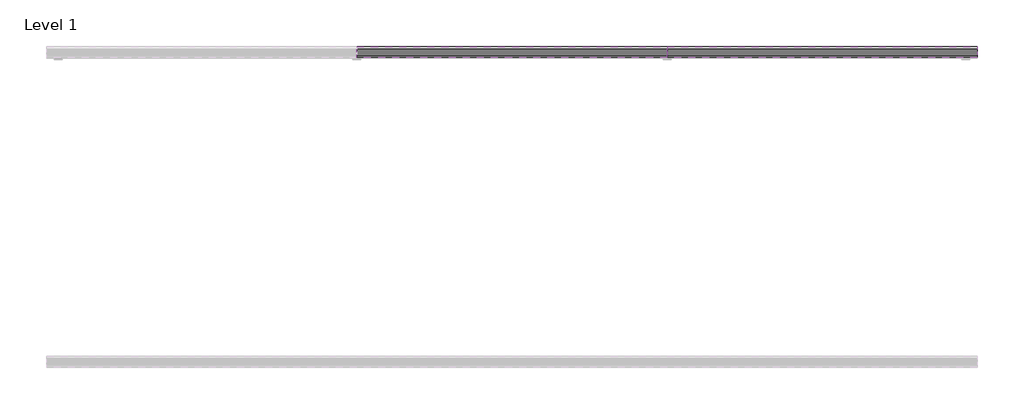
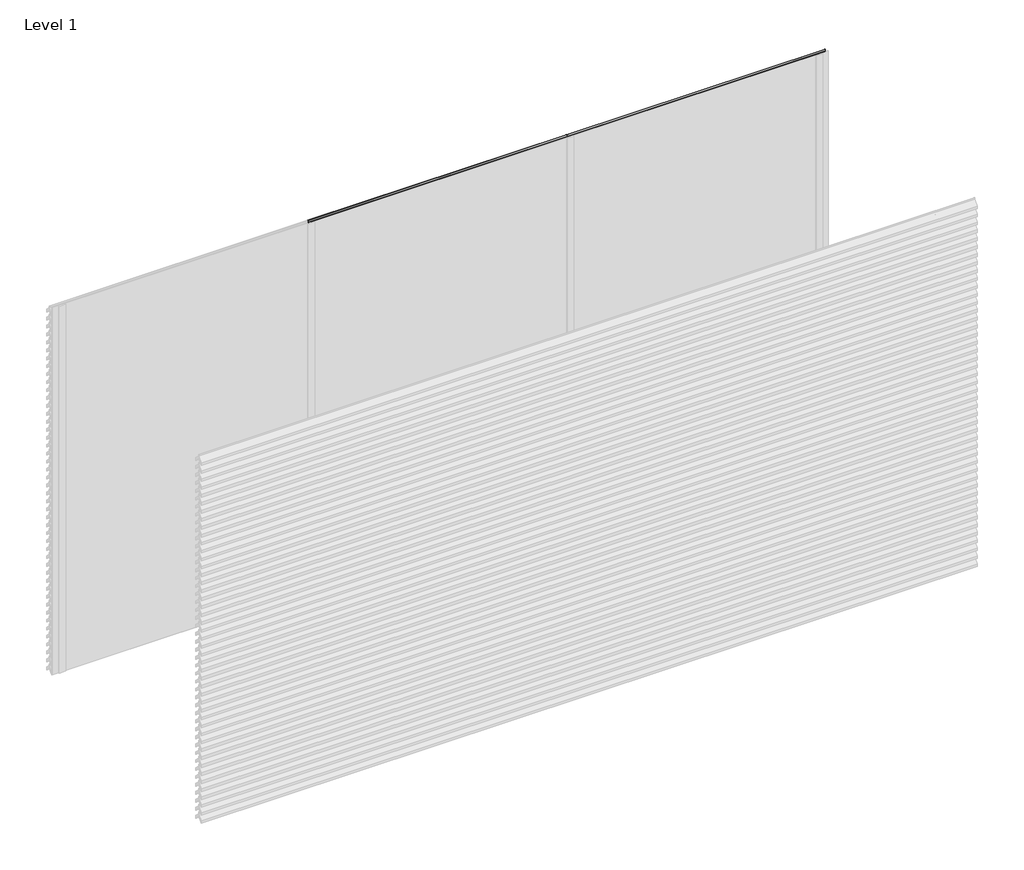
# One storey, part 9 of 9: 92 proxies.
"""IFC4 building model written with IfcOpenShell, lengths in millimetres."""

import ifcopenshell
import ifcopenshell.guid

model = None  # the IFC model being written
_history = None  # IfcOwnerHistory: only IFC2X3 demands one
_inside = {}  # id of a spatial element -> (the spatial element, [elements in it])
_under = {}  # id of a project, library or spatial element -> (it, [spatial elements below it])
_declared = {}  # id of a project -> (the project, [libraries it declares])
_typed = {}  # id of a type object -> (the type object, [elements of that type])
_made_of = {}  # id of a material, layer set ... -> (it, [elements and type objects made of it])


def new_model(schema):
    """Start an empty IFC model of exactly this schema.

    Asked for "IFC4X3", IfcOpenShell would pick the latest addendum, in which some entities
    have other attributes; the version numbers below select the first issue.
    IFC2X3 requires an IfcOwnerHistory on every rooted entity: one is made here for all.
    """
    global model, _history
    if schema == "IFC4X3":
        model = ifcopenshell.file(schema_version=(4, 3, 0, 0))
    else:
        model = ifcopenshell.file(schema=schema)
    _inside.clear()
    _under.clear()
    _declared.clear()
    _typed.clear()
    _made_of.clear()
    _history = None
    if model.schema == "IFC2X3":
        org = make("IfcOrganization", Name="unknown")
        user = make(
            "IfcPersonAndOrganization",
            ThePerson=make("IfcPerson", FamilyName="unknown"),
            TheOrganization=org,
        )
        app = make(
            "IfcApplication",
            ApplicationDeveloper=org,
            Version="unknown",
            ApplicationFullName="unknown",
            ApplicationIdentifier="unknown",
        )
        _history = make(
            "IfcOwnerHistory",
            OwningUser=user,
            OwningApplication=app,
            ChangeAction="ADDED",
            CreationDate=0,
        )
    return model


def make(cls, **values):
    """One entity of the class cls with the attributes given. An attribute that is None is left unset."""
    return model.create_entity(
        cls, **{name: value for name, value in values.items() if value is not None}
    )


def rooted(cls, **values):
    """An entity with a GlobalId (a new one), such as an element, a storey or a relation."""
    return make(cls, GlobalId=ifcopenshell.guid.new(), OwnerHistory=_history, **values)


def si_unit(unit_type, name, prefix=None):
    """IfcSIUnit, for example si_unit("LENGTHUNIT", "METRE", prefix="MILLI")."""
    return make("IfcSIUnit", UnitType=unit_type, Prefix=prefix, Name=name)


def assignment(units):
    """IfcUnitAssignment: the units of a project."""
    return None if units is None else make("IfcUnitAssignment", Units=units)


def point(xyz):
    """IfcCartesianPoint."""
    return None if xyz is None else make("IfcCartesianPoint", Coordinates=xyz)


def direction(xyz):
    """IfcDirection."""
    return None if xyz is None else make("IfcDirection", DirectionRatios=xyz)


def frame(location, z_axis=None, x_axis=None):
    """IfcAxis2Placement3D, a coordinate frame: its origin and axes. An axis left out is left unset."""
    return make(
        "IfcAxis2Placement3D",
        Location=point(location),
        Axis=direction(z_axis),
        RefDirection=direction(x_axis),
    )


def origin():
    """The frame at (0, 0, 0) with its axes left unset."""
    return frame((0.0, 0.0, 0.0))


def place(relative_to, where):
    """IfcLocalPlacement: puts the frame where relative to a parent placement (None: the world)."""
    return make(
        "IfcLocalPlacement", PlacementRelTo=relative_to, RelativePlacement=where
    )


def context(
    kind, dimensions, precision=None, world=None, true_north=None, identifier=None
):
    """IfcGeometricRepresentationContext, for example the 3D "Model" context."""
    return make(
        "IfcGeometricRepresentationContext",
        ContextIdentifier=identifier,
        ContextType=kind,
        CoordinateSpaceDimension=dimensions,
        Precision=precision,
        WorldCoordinateSystem=world,
        TrueNorth=true_north,
    )


def project(units=None, contexts=None):
    """IfcProject with its units and contexts."""
    return rooted(
        "IfcProject",
        Name="project",
        RepresentationContexts=contexts,
        UnitsInContext=assignment(units),
    )


def spatial(cls, under=None, at=None, **own):
    """A site, building, storey or space (cls), placed at a placement, below another one or the project."""
    s = rooted(cls, ObjectPlacement=at, **own)
    if under is not None:
        _under.setdefault(under.id(), (under, []))[1].append(s)
    return s


def polyline(points):
    """IfcPolyline through the points."""
    return make("IfcPolyline", Points=[point(p) for p in points])


def outline(outer, holes=None, kind="AREA"):
    """IfcArbitraryClosedProfileDef: a profile drawn as a closed curve; with holes, ...WithVoids."""
    if holes is None:
        return make("IfcArbitraryClosedProfileDef", ProfileType=kind, OuterCurve=outer)
    return make(
        "IfcArbitraryProfileDefWithVoids",
        ProfileType=kind,
        OuterCurve=outer,
        InnerCurves=holes,
    )


def extrude(swept, where, along, depth):
    """IfcExtrudedAreaSolid: the profile swept, set in the frame where, extruded along a direction by depth."""
    return make(
        "IfcExtrudedAreaSolid",
        SweptArea=swept,
        Position=where,
        ExtrudedDirection=direction(along),
        Depth=depth,
    )


def shape(context_of_items, identifier, shape_type, items):
    """IfcShapeRepresentation: the items that make up one representation, for example the "Body"."""
    return make(
        "IfcShapeRepresentation",
        ContextOfItems=context_of_items,
        RepresentationIdentifier=identifier,
        RepresentationType=shape_type,
        Items=items,
    )


def made_of(thing, what):
    """Note that an element or type object is made of a material, layer set ...; save() writes the relation."""
    if what is not None:
        _made_of.setdefault(what.id(), (what, []))[1].append(thing)
    return thing


def element(
    cls,
    number,
    at=None,
    inside=None,
    cuts=None,
    type_object=None,
    material=None,
    context=None,
    identifier="Body",
    shape_type=None,
    held_by="IfcProductDefinitionShape",
    body=None,
    shapes=None,
    **own,
):
    """One element of the class cls, such as IfcWall. Its Tag is "e" and its number.

    at: its placement. inside: the storey or other place that contains it. cuts: it is an
    opening in that element (IfcRelVoidsElement). A single representation is given by context,
    identifier, shape_type and body (its items); several are given by shapes. held_by: the class
    of the entity that holds the representations. save() writes the other relations.
    """
    e = rooted(cls, Tag="e%d" % number, ObjectPlacement=at, **own)
    if body is not None:
        shapes = [shape(context, identifier, shape_type, body)]
    if shapes is not None:
        e.Representation = make(held_by, Representations=shapes)
    if inside is not None:
        _inside.setdefault(inside.id(), (inside, []))[1].append(e)
    if cuts is not None:
        rooted(
            "IfcRelVoidsElement", RelatingBuildingElement=cuts, RelatedOpeningElement=e
        )
    if type_object is not None:
        _typed.setdefault(type_object.id(), (type_object, []))[1].append(e)
    return made_of(e, material)


def aggregate(whole, parts):
    """IfcRelAggregates: a whole, such as a stair, and the parts it consists of."""
    return rooted("IfcRelAggregates", RelatingObject=whole, RelatedObjects=parts)


def save(model, path):
    """Write the relations noted so far, then the file.

    IfcRelAggregates (storeys below a building ...), IfcRelContainedInSpatialStructure (elements
    in a storey), IfcRelDefinesByType, IfcRelAssociatesMaterial and IfcRelDeclares: one each for
    every whole, place, type object, material and project.
    """
    for whole, parts in _under.values():
        aggregate(whole, parts)
    for where, things in _inside.values():
        rooted(
            "IfcRelContainedInSpatialStructure",
            RelatedElements=things,
            RelatingStructure=where,
        )
    for kind, things in _typed.values():
        rooted("IfcRelDefinesByType", RelatedObjects=things, RelatingType=kind)
    for what, things in _made_of.values():
        rooted("IfcRelAssociatesMaterial", RelatedObjects=things, RelatingMaterial=what)
    for by, libraries in _declared.values():
        rooted("IfcRelDeclares", RelatingContext=by, RelatedDefinitions=libraries)
    model.write(path)


model = new_model("IFC4")

# Units and contexts
model_context = context("Model", 3, world=origin())
ifc_project = project(units=[si_unit("LENGTHUNIT", "METRE", prefix="MILLI")], contexts=[model_context])

# Site, building, storey
site = spatial("IfcSite", under=ifc_project)
building = spatial("IfcBuilding", under=site)
storey = spatial("IfcBuildingStorey", under=building, Name="Level 1", Elevation=0.0)

# Proxies
placement = place(None, origin())
element("IfcBuildingElementProxy", 1, Name="Wall Sweeps", at=placement, inside=storey, context=model_context, shape_type="SweptSolid", body=[
    extrude(outline(polyline([(74.0, 2942.0), (74.0, 2919.0), (38.5, 2954.5), (3.0, 2919.0), (3.0, 2942.0), (37.5, 2976.5), (37.5, 2990.0), (39.5, 2990.0), (39.5, 2976.5), (74.0, 2942.0)])), frame((2000.0, 0.0, 0.0), z_axis=(1.0, 0.0, 0.0), x_axis=(0.0, 1.0, 0.0)), (0.0, 0.0, 1.0), 2000.0),
])
element("IfcBuildingElementProxy", 2, Name="Wall Sweeps", at=placement, inside=storey, context=model_context, shape_type="SweptSolid", body=[
    extrude(outline(polyline([(74.0, 2877.0), (74.0, 2854.0), (38.5, 2889.5), (3.0, 2854.0), (3.0, 2877.0), (37.5, 2911.5), (37.5, 2925.0), (39.5, 2925.0), (39.5, 2911.5), (74.0, 2877.0)])), frame((2000.0, 0.0, 0.0), z_axis=(1.0, 0.0, 0.0), x_axis=(0.0, 1.0, 0.0)), (0.0, 0.0, 1.0), 2000.0),
])
element("IfcBuildingElementProxy", 3, Name="Wall Sweeps", at=placement, inside=storey, context=model_context, shape_type="SweptSolid", body=[
    extrude(outline(polyline([(74.0, 2812.0), (74.0, 2789.0), (38.5, 2824.5), (3.0, 2789.0), (3.0, 2812.0), (37.5, 2846.5), (37.5, 2860.0), (39.5, 2860.0), (39.5, 2846.5), (74.0, 2812.0)])), frame((2000.0, 0.0, 0.0), z_axis=(1.0, 0.0, 0.0), x_axis=(0.0, 1.0, 0.0)), (0.0, 0.0, 1.0), 2000.0),
])
element("IfcBuildingElementProxy", 4, Name="Wall Sweeps", at=placement, inside=storey, context=model_context, shape_type="SweptSolid", body=[
    extrude(outline(polyline([(74.0, 2747.0), (74.0, 2724.0), (38.5, 2759.5), (3.0, 2724.0), (3.0, 2747.0), (37.5, 2781.5), (37.5, 2795.0), (39.5, 2795.0), (39.5, 2781.5), (74.0, 2747.0)])), frame((2000.0, 0.0, 0.0), z_axis=(1.0, 0.0, 0.0), x_axis=(0.0, 1.0, 0.0)), (0.0, 0.0, 1.0), 2000.0),
])
element("IfcBuildingElementProxy", 5, Name="Wall Sweeps", at=placement, inside=storey, context=model_context, shape_type="SweptSolid", body=[
    extrude(outline(polyline([(74.0, 2682.0), (74.0, 2659.0), (38.5, 2694.5), (3.0, 2659.0), (3.0, 2682.0), (37.5, 2716.5), (37.5, 2730.0), (39.5, 2730.0), (39.5, 2716.5), (74.0, 2682.0)])), frame((2000.0, 0.0, 0.0), z_axis=(1.0, 0.0, 0.0), x_axis=(0.0, 1.0, 0.0)), (0.0, 0.0, 1.0), 2000.0),
])
element("IfcBuildingElementProxy", 6, Name="Wall Sweeps", at=placement, inside=storey, context=model_context, shape_type="SweptSolid", body=[
    extrude(outline(polyline([(74.0, 2617.0), (74.0, 2594.0), (38.5, 2629.5), (3.0, 2594.0), (3.0, 2617.0), (37.5, 2651.5), (37.5, 2665.0), (39.5, 2665.0), (39.5, 2651.5), (74.0, 2617.0)])), frame((2000.0, 0.0, 0.0), z_axis=(1.0, 0.0, 0.0), x_axis=(0.0, 1.0, 0.0)), (0.0, 0.0, 1.0), 2000.0),
])
element("IfcBuildingElementProxy", 7, Name="Wall Sweeps", at=placement, inside=storey, context=model_context, shape_type="SweptSolid", body=[
    extrude(outline(polyline([(74.0, 2552.0), (74.0, 2529.0), (38.5, 2564.5), (3.0, 2529.0), (3.0, 2552.0), (37.5, 2586.5), (37.5, 2600.0), (39.5, 2600.0), (39.5, 2586.5), (74.0, 2552.0)])), frame((2000.0, 0.0, 0.0), z_axis=(1.0, 0.0, 0.0), x_axis=(0.0, 1.0, 0.0)), (0.0, 0.0, 1.0), 2000.0),
])
element("IfcBuildingElementProxy", 8, Name="Wall Sweeps", at=placement, inside=storey, context=model_context, shape_type="SweptSolid", body=[
    extrude(outline(polyline([(74.0, 2487.0), (74.0, 2464.0), (38.5, 2499.5), (3.0, 2464.0), (3.0, 2487.0), (37.5, 2521.5), (37.5, 2535.0), (39.5, 2535.0), (39.5, 2521.5), (74.0, 2487.0)])), frame((2000.0, 0.0, 0.0), z_axis=(1.0, 0.0, 0.0), x_axis=(0.0, 1.0, 0.0)), (0.0, 0.0, 1.0), 2000.0),
])
element("IfcBuildingElementProxy", 9, Name="Wall Sweeps", at=placement, inside=storey, context=model_context, shape_type="SweptSolid", body=[
    extrude(outline(polyline([(74.0, 2422.0), (74.0, 2399.0), (38.5, 2434.5), (3.0, 2399.0), (3.0, 2422.0), (37.5, 2456.5), (37.5, 2470.0), (39.5, 2470.0), (39.5, 2456.5), (74.0, 2422.0)])), frame((2000.0, 0.0, 0.0), z_axis=(1.0, 0.0, 0.0), x_axis=(0.0, 1.0, 0.0)), (0.0, 0.0, 1.0), 2000.0),
])
element("IfcBuildingElementProxy", 10, Name="Wall Sweeps", at=placement, inside=storey, context=model_context, shape_type="SweptSolid", body=[
    extrude(outline(polyline([(74.0, 2357.0), (74.0, 2334.0), (38.5, 2369.5), (3.0, 2334.0), (3.0, 2357.0), (37.5, 2391.5), (37.5, 2405.0), (39.5, 2405.0), (39.5, 2391.5), (74.0, 2357.0)])), frame((2000.0, 0.0, 0.0), z_axis=(1.0, 0.0, 0.0), x_axis=(0.0, 1.0, 0.0)), (0.0, 0.0, 1.0), 2000.0),
])
element("IfcBuildingElementProxy", 11, Name="Wall Sweeps", at=placement, inside=storey, context=model_context, shape_type="SweptSolid", body=[
    extrude(outline(polyline([(74.0, 2292.0), (74.0, 2269.0), (38.5, 2304.5), (3.0, 2269.0), (3.0, 2292.0), (37.5, 2326.5), (37.5, 2340.0), (39.5, 2340.0), (39.5, 2326.5), (74.0, 2292.0)])), frame((2000.0, 0.0, 0.0), z_axis=(1.0, 0.0, 0.0), x_axis=(0.0, 1.0, 0.0)), (0.0, 0.0, 1.0), 2000.0),
])
element("IfcBuildingElementProxy", 12, Name="Wall Sweeps", at=placement, inside=storey, context=model_context, shape_type="SweptSolid", body=[
    extrude(outline(polyline([(74.0, 2227.0), (74.0, 2204.0), (38.5, 2239.5), (3.0, 2204.0), (3.0, 2227.0), (37.5, 2261.5), (37.5, 2275.0), (39.5, 2275.0), (39.5, 2261.5), (74.0, 2227.0)])), frame((2000.0, 0.0, 0.0), z_axis=(1.0, 0.0, 0.0), x_axis=(0.0, 1.0, 0.0)), (0.0, 0.0, 1.0), 2000.0),
])
element("IfcBuildingElementProxy", 13, Name="Wall Sweeps", at=placement, inside=storey, context=model_context, shape_type="SweptSolid", body=[
    extrude(outline(polyline([(74.0, 2162.0), (74.0, 2139.0), (38.5, 2174.5), (3.0, 2139.0), (3.0, 2162.0), (37.5, 2196.5), (37.5, 2210.0), (39.5, 2210.0), (39.5, 2196.5), (74.0, 2162.0)])), frame((2000.0, 0.0, 0.0), z_axis=(1.0, 0.0, 0.0), x_axis=(0.0, 1.0, 0.0)), (0.0, 0.0, 1.0), 2000.0),
])
element("IfcBuildingElementProxy", 14, Name="Wall Sweeps", at=placement, inside=storey, context=model_context, shape_type="SweptSolid", body=[
    extrude(outline(polyline([(74.0, 2097.0), (74.0, 2074.0), (38.5, 2109.5), (3.0, 2074.0), (3.0, 2097.0), (37.5, 2131.5), (37.5, 2145.0), (39.5, 2145.0), (39.5, 2131.5), (74.0, 2097.0)])), frame((2000.0, 0.0, 0.0), z_axis=(1.0, 0.0, 0.0), x_axis=(0.0, 1.0, 0.0)), (0.0, 0.0, 1.0), 2000.0),
])
element("IfcBuildingElementProxy", 15, Name="Wall Sweeps", at=placement, inside=storey, context=model_context, shape_type="SweptSolid", body=[
    extrude(outline(polyline([(74.0, 2032.0), (74.0, 2009.0), (38.5, 2044.5), (3.0, 2009.0), (3.0, 2032.0), (37.5, 2066.5), (37.5, 2080.0), (39.5, 2080.0), (39.5, 2066.5), (74.0, 2032.0)])), frame((2000.0, 0.0, 0.0), z_axis=(1.0, 0.0, 0.0), x_axis=(0.0, 1.0, 0.0)), (0.0, 0.0, 1.0), 2000.0),
])
element("IfcBuildingElementProxy", 16, Name="Wall Sweeps", at=placement, inside=storey, context=model_context, shape_type="SweptSolid", body=[
    extrude(outline(polyline([(74.0, 1967.0), (74.0, 1944.0), (38.5, 1979.5), (3.0, 1944.0), (3.0, 1967.0), (37.5, 2001.5), (37.5, 2015.0), (39.5, 2015.0), (39.5, 2001.5), (74.0, 1967.0)])), frame((2000.0, 0.0, 0.0), z_axis=(1.0, 0.0, 0.0), x_axis=(0.0, 1.0, 0.0)), (0.0, 0.0, 1.0), 2000.0),
])
element("IfcBuildingElementProxy", 17, Name="Wall Sweeps", at=placement, inside=storey, context=model_context, shape_type="SweptSolid", body=[
    extrude(outline(polyline([(74.0, 1902.0), (74.0, 1879.0), (38.5, 1914.5), (3.0, 1879.0), (3.0, 1902.0), (37.5, 1936.5), (37.5, 1950.0), (39.5, 1950.0), (39.5, 1936.5), (74.0, 1902.0)])), frame((2000.0, 0.0, 0.0), z_axis=(1.0, 0.0, 0.0), x_axis=(0.0, 1.0, 0.0)), (0.0, 0.0, 1.0), 2000.0),
])
element("IfcBuildingElementProxy", 18, Name="Wall Sweeps", at=placement, inside=storey, context=model_context, shape_type="SweptSolid", body=[
    extrude(outline(polyline([(74.0, 1837.0), (74.0, 1814.0), (38.5, 1849.5), (3.0, 1814.0), (3.0, 1837.0), (37.5, 1871.5), (37.5, 1885.0), (39.5, 1885.0), (39.5, 1871.5), (74.0, 1837.0)])), frame((2000.0, 0.0, 0.0), z_axis=(1.0, 0.0, 0.0), x_axis=(0.0, 1.0, 0.0)), (0.0, 0.0, 1.0), 2000.0),
])
element("IfcBuildingElementProxy", 19, Name="Wall Sweeps", at=placement, inside=storey, context=model_context, shape_type="SweptSolid", body=[
    extrude(outline(polyline([(74.0, 1772.0), (74.0, 1749.0), (38.5, 1784.5), (3.0, 1749.0), (3.0, 1772.0), (37.5, 1806.5), (37.5, 1820.0), (39.5, 1820.0), (39.5, 1806.5), (74.0, 1772.0)])), frame((2000.0, 0.0, 0.0), z_axis=(1.0, 0.0, 0.0), x_axis=(0.0, 1.0, 0.0)), (0.0, 0.0, 1.0), 2000.0),
])
element("IfcBuildingElementProxy", 20, Name="Wall Sweeps", at=placement, inside=storey, context=model_context, shape_type="SweptSolid", body=[
    extrude(outline(polyline([(74.0, 1707.0), (74.0, 1684.0), (38.5, 1719.5), (3.0, 1684.0), (3.0, 1707.0), (37.5, 1741.5), (37.5, 1755.0), (39.5, 1755.0), (39.5, 1741.5), (74.0, 1707.0)])), frame((2000.0, 0.0, 0.0), z_axis=(1.0, 0.0, 0.0), x_axis=(0.0, 1.0, 0.0)), (0.0, 0.0, 1.0), 2000.0),
])
element("IfcBuildingElementProxy", 21, Name="Wall Sweeps", at=placement, inside=storey, context=model_context, shape_type="SweptSolid", body=[
    extrude(outline(polyline([(74.0, 1642.0), (74.0, 1619.0), (38.5, 1654.5), (3.0, 1619.0), (3.0, 1642.0), (37.5, 1676.5), (37.5, 1690.0), (39.5, 1690.0), (39.5, 1676.5), (74.0, 1642.0)])), frame((2000.0, 0.0, 0.0), z_axis=(1.0, 0.0, 0.0), x_axis=(0.0, 1.0, 0.0)), (0.0, 0.0, 1.0), 2000.0),
])
element("IfcBuildingElementProxy", 22, Name="Wall Sweeps", at=placement, inside=storey, context=model_context, shape_type="SweptSolid", body=[
    extrude(outline(polyline([(74.0, 1577.0), (74.0, 1554.0), (38.5, 1589.5), (3.0, 1554.0), (3.0, 1577.0), (37.5, 1611.5), (37.5, 1625.0), (39.5, 1625.0), (39.5, 1611.5), (74.0, 1577.0)])), frame((2000.0, 0.0, 0.0), z_axis=(1.0, 0.0, 0.0), x_axis=(0.0, 1.0, 0.0)), (0.0, 0.0, 1.0), 2000.0),
])
element("IfcBuildingElementProxy", 23, Name="Wall Sweeps", at=placement, inside=storey, context=model_context, shape_type="SweptSolid", body=[
    extrude(outline(polyline([(74.0, 1512.0), (74.0, 1489.0), (38.5, 1524.5), (3.0, 1489.0), (3.0, 1512.0), (37.5, 1546.5), (37.5, 1560.0), (39.5, 1560.0), (39.5, 1546.5), (74.0, 1512.0)])), frame((2000.0, 0.0, 0.0), z_axis=(1.0, 0.0, 0.0), x_axis=(0.0, 1.0, 0.0)), (0.0, 0.0, 1.0), 2000.0),
])
element("IfcBuildingElementProxy", 24, Name="Wall Sweeps", at=placement, inside=storey, context=model_context, shape_type="SweptSolid", body=[
    extrude(outline(polyline([(74.0, 1447.0), (74.0, 1424.0), (38.5, 1459.5), (3.0, 1424.0), (3.0, 1447.0), (37.5, 1481.5), (37.5, 1495.0), (39.5, 1495.0), (39.5, 1481.5), (74.0, 1447.0)])), frame((2000.0, 0.0, 0.0), z_axis=(1.0, 0.0, 0.0), x_axis=(0.0, 1.0, 0.0)), (0.0, 0.0, 1.0), 2000.0),
])
element("IfcBuildingElementProxy", 25, Name="Wall Sweeps", at=placement, inside=storey, context=model_context, shape_type="SweptSolid", body=[
    extrude(outline(polyline([(74.0, 1382.0), (74.0, 1359.0), (38.5, 1394.5), (3.0, 1359.0), (3.0, 1382.0), (37.5, 1416.5), (37.5, 1430.0), (39.5, 1430.0), (39.5, 1416.5), (74.0, 1382.0)])), frame((2000.0, 0.0, 0.0), z_axis=(1.0, 0.0, 0.0), x_axis=(0.0, 1.0, 0.0)), (0.0, 0.0, 1.0), 2000.0),
])
element("IfcBuildingElementProxy", 26, Name="Wall Sweeps", at=placement, inside=storey, context=model_context, shape_type="SweptSolid", body=[
    extrude(outline(polyline([(74.0, 1317.0), (74.0, 1294.0), (38.5, 1329.5), (3.0, 1294.0), (3.0, 1317.0), (37.5, 1351.5), (37.5, 1365.0), (39.5, 1365.0), (39.5, 1351.5), (74.0, 1317.0)])), frame((2000.0, 0.0, 0.0), z_axis=(1.0, 0.0, 0.0), x_axis=(0.0, 1.0, 0.0)), (0.0, 0.0, 1.0), 2000.0),
])
element("IfcBuildingElementProxy", 27, Name="Wall Sweeps", at=placement, inside=storey, context=model_context, shape_type="SweptSolid", body=[
    extrude(outline(polyline([(74.0, 1252.0), (74.0, 1229.0), (38.5, 1264.5), (3.0, 1229.0), (3.0, 1252.0), (37.5, 1286.5), (37.5, 1300.0), (39.5, 1300.0), (39.5, 1286.5), (74.0, 1252.0)])), frame((2000.0, 0.0, 0.0), z_axis=(1.0, 0.0, 0.0), x_axis=(0.0, 1.0, 0.0)), (0.0, 0.0, 1.0), 2000.0),
])
element("IfcBuildingElementProxy", 28, Name="Wall Sweeps", at=placement, inside=storey, context=model_context, shape_type="SweptSolid", body=[
    extrude(outline(polyline([(74.0, 1187.0), (74.0, 1164.0), (38.5, 1199.5), (3.0, 1164.0), (3.0, 1187.0), (37.5, 1221.5), (37.5, 1235.0), (39.5, 1235.0), (39.5, 1221.5), (74.0, 1187.0)])), frame((2000.0, 0.0, 0.0), z_axis=(1.0, 0.0, 0.0), x_axis=(0.0, 1.0, 0.0)), (0.0, 0.0, 1.0), 2000.0),
])
element("IfcBuildingElementProxy", 29, Name="Wall Sweeps", at=placement, inside=storey, context=model_context, shape_type="SweptSolid", body=[
    extrude(outline(polyline([(74.0, 1122.0), (74.0, 1099.0), (38.5, 1134.5), (3.0, 1099.0), (3.0, 1122.0), (37.5, 1156.5), (37.5, 1170.0), (39.5, 1170.0), (39.5, 1156.5), (74.0, 1122.0)])), frame((2000.0, 0.0, 0.0), z_axis=(1.0, 0.0, 0.0), x_axis=(0.0, 1.0, 0.0)), (0.0, 0.0, 1.0), 2000.0),
])
element("IfcBuildingElementProxy", 30, Name="Wall Sweeps", at=placement, inside=storey, context=model_context, shape_type="SweptSolid", body=[
    extrude(outline(polyline([(74.0, 1057.0), (74.0, 1034.0), (38.5, 1069.5), (3.0, 1034.0), (3.0, 1057.0), (37.5, 1091.5), (37.5, 1105.0), (39.5, 1105.0), (39.5, 1091.5), (74.0, 1057.0)])), frame((2000.0, 0.0, 0.0), z_axis=(1.0, 0.0, 0.0), x_axis=(0.0, 1.0, 0.0)), (0.0, 0.0, 1.0), 2000.0),
])
element("IfcBuildingElementProxy", 31, Name="Wall Sweeps", at=placement, inside=storey, context=model_context, shape_type="SweptSolid", body=[
    extrude(outline(polyline([(74.0, 992.0), (74.0, 969.0), (38.5, 1004.5), (3.0, 969.0), (3.0, 992.0), (37.5, 1026.5), (37.5, 1040.0), (39.5, 1040.0), (39.5, 1026.5), (74.0, 992.0)])), frame((2000.0, 0.0, 0.0), z_axis=(1.0, 0.0, 0.0), x_axis=(0.0, 1.0, 0.0)), (0.0, 0.0, 1.0), 2000.0),
])
element("IfcBuildingElementProxy", 32, Name="Wall Sweeps", at=placement, inside=storey, context=model_context, shape_type="SweptSolid", body=[
    extrude(outline(polyline([(74.0, 927.0), (74.0, 904.0), (38.5, 939.5), (3.0, 904.0), (3.0, 927.0), (37.5, 961.5), (37.5, 975.0), (39.5, 975.0), (39.5, 961.5), (74.0, 927.0)])), frame((2000.0, 0.0, 0.0), z_axis=(1.0, 0.0, 0.0), x_axis=(0.0, 1.0, 0.0)), (0.0, 0.0, 1.0), 2000.0),
])
element("IfcBuildingElementProxy", 33, Name="Wall Sweeps", at=placement, inside=storey, context=model_context, shape_type="SweptSolid", body=[
    extrude(outline(polyline([(74.0, 862.0), (74.0, 839.0), (38.5, 874.5), (3.0, 839.0), (3.0, 862.0), (37.5, 896.5), (37.5, 910.0), (39.5, 910.0), (39.5, 896.5), (74.0, 862.0)])), frame((2000.0, 0.0, 0.0), z_axis=(1.0, 0.0, 0.0), x_axis=(0.0, 1.0, 0.0)), (0.0, 0.0, 1.0), 2000.0),
])
element("IfcBuildingElementProxy", 34, Name="Wall Sweeps", at=placement, inside=storey, context=model_context, shape_type="SweptSolid", body=[
    extrude(outline(polyline([(74.0, 797.0), (74.0, 774.0), (38.5, 809.5), (3.0, 774.0), (3.0, 797.0), (37.5, 831.5), (37.5, 845.0), (39.5, 845.0), (39.5, 831.5), (74.0, 797.0)])), frame((2000.0, 0.0, 0.0), z_axis=(1.0, 0.0, 0.0), x_axis=(0.0, 1.0, 0.0)), (0.0, 0.0, 1.0), 2000.0),
])
element("IfcBuildingElementProxy", 35, Name="Wall Sweeps", at=placement, inside=storey, context=model_context, shape_type="SweptSolid", body=[
    extrude(outline(polyline([(74.0, 732.0), (74.0, 709.0), (38.5, 744.5), (3.0, 709.0), (3.0, 732.0), (37.5, 766.5), (37.5, 780.0), (39.5, 780.0), (39.5, 766.5), (74.0, 732.0)])), frame((2000.0, 0.0, 0.0), z_axis=(1.0, 0.0, 0.0), x_axis=(0.0, 1.0, 0.0)), (0.0, 0.0, 1.0), 2000.0),
])
element("IfcBuildingElementProxy", 36, Name="Wall Sweeps", at=placement, inside=storey, context=model_context, shape_type="SweptSolid", body=[
    extrude(outline(polyline([(74.0, 667.0), (74.0, 644.0), (38.5, 679.5), (3.0, 644.0), (3.0, 667.0), (37.5, 701.5), (37.5, 715.0), (39.5, 715.0), (39.5, 701.5), (74.0, 667.0)])), frame((2000.0, 0.0, 0.0), z_axis=(1.0, 0.0, 0.0), x_axis=(0.0, 1.0, 0.0)), (0.0, 0.0, 1.0), 2000.0),
])
element("IfcBuildingElementProxy", 37, Name="Wall Sweeps", at=placement, inside=storey, context=model_context, shape_type="SweptSolid", body=[
    extrude(outline(polyline([(74.0, 602.0), (74.0, 579.0), (38.5, 614.5), (3.0, 579.0), (3.0, 602.0), (37.5, 636.5), (37.5, 650.0), (39.5, 650.0), (39.5, 636.5), (74.0, 602.0)])), frame((2000.0, 0.0, 0.0), z_axis=(1.0, 0.0, 0.0), x_axis=(0.0, 1.0, 0.0)), (0.0, 0.0, 1.0), 2000.0),
])
element("IfcBuildingElementProxy", 38, Name="Wall Sweeps", at=placement, inside=storey, context=model_context, shape_type="SweptSolid", body=[
    extrude(outline(polyline([(74.0, 537.0), (74.0, 514.0), (38.5, 549.5), (3.0, 514.0), (3.0, 537.0), (37.5, 571.5), (37.5, 585.0), (39.5, 585.0), (39.5, 571.5), (74.0, 537.0)])), frame((2000.0, 0.0, 0.0), z_axis=(1.0, 0.0, 0.0), x_axis=(0.0, 1.0, 0.0)), (0.0, 0.0, 1.0), 2000.0),
])
element("IfcBuildingElementProxy", 39, Name="Wall Sweeps", at=placement, inside=storey, context=model_context, shape_type="SweptSolid", body=[
    extrude(outline(polyline([(74.0, 472.0), (74.0, 449.0), (38.5, 484.5), (3.0, 449.0), (3.0, 472.0), (37.5, 506.5), (37.5, 520.0), (39.5, 520.0), (39.5, 506.5), (74.0, 472.0)])), frame((2000.0, 0.0, 0.0), z_axis=(1.0, 0.0, 0.0), x_axis=(0.0, 1.0, 0.0)), (0.0, 0.0, 1.0), 2000.0),
])
element("IfcBuildingElementProxy", 40, Name="Wall Sweeps", at=placement, inside=storey, context=model_context, shape_type="SweptSolid", body=[
    extrude(outline(polyline([(74.0, 407.0), (74.0, 384.0), (38.5, 419.5), (3.0, 384.0), (3.0, 407.0), (37.5, 441.5), (37.5, 455.0), (39.5, 455.0), (39.5, 441.5), (74.0, 407.0)])), frame((2000.0, 0.0, 0.0), z_axis=(1.0, 0.0, 0.0), x_axis=(0.0, 1.0, 0.0)), (0.0, 0.0, 1.0), 2000.0),
])
element("IfcBuildingElementProxy", 41, Name="Wall Sweeps", at=placement, inside=storey, context=model_context, shape_type="SweptSolid", body=[
    extrude(outline(polyline([(74.0, 342.0), (74.0, 319.0), (38.5, 354.5), (3.0, 319.0), (3.0, 342.0), (37.5, 376.5), (37.5, 390.0), (39.5, 390.0), (39.5, 376.5), (74.0, 342.0)])), frame((2000.0, 0.0, 0.0), z_axis=(1.0, 0.0, 0.0), x_axis=(0.0, 1.0, 0.0)), (0.0, 0.0, 1.0), 2000.0),
])
element("IfcBuildingElementProxy", 42, Name="Wall Sweeps", at=placement, inside=storey, context=model_context, shape_type="SweptSolid", body=[
    extrude(outline(polyline([(74.0, 277.0), (74.0, 254.0), (38.5, 289.5), (3.0, 254.0), (3.0, 277.0), (37.5, 311.5), (37.5, 325.0), (39.5, 325.0), (39.5, 311.5), (74.0, 277.0)])), frame((2000.0, 0.0, 0.0), z_axis=(1.0, 0.0, 0.0), x_axis=(0.0, 1.0, 0.0)), (0.0, 0.0, 1.0), 2000.0),
])
element("IfcBuildingElementProxy", 43, Name="Wall Sweeps", at=placement, inside=storey, context=model_context, shape_type="SweptSolid", body=[
    extrude(outline(polyline([(74.0, 212.0), (74.0, 189.0), (38.5, 224.5), (3.0, 189.0), (3.0, 212.0), (37.5, 246.5), (37.5, 260.0), (39.5, 260.0), (39.5, 246.5), (74.0, 212.0)])), frame((2000.0, 0.0, 0.0), z_axis=(1.0, 0.0, 0.0), x_axis=(0.0, 1.0, 0.0)), (0.0, 0.0, 1.0), 2000.0),
])
element("IfcBuildingElementProxy", 44, Name="Wall Sweeps", at=placement, inside=storey, context=model_context, shape_type="SweptSolid", body=[
    extrude(outline(polyline([(74.0, 147.0), (74.0, 124.0), (38.5, 159.5), (3.0, 124.0), (3.0, 147.0), (37.5, 181.5), (37.5, 195.0), (39.5, 195.0), (39.5, 181.5), (74.0, 147.0)])), frame((2000.0, 0.0, 0.0), z_axis=(1.0, 0.0, 0.0), x_axis=(0.0, 1.0, 0.0)), (0.0, 0.0, 1.0), 2000.0),
])
element("IfcBuildingElementProxy", 45, Name="Wall Sweeps", at=placement, inside=storey, context=model_context, shape_type="SweptSolid", body=[
    extrude(outline(polyline([(74.0, 82.0), (74.0, 59.0), (38.5, 94.5), (3.0, 59.0), (3.0, 82.0), (37.5, 116.5), (37.5, 130.0), (39.5, 130.0), (39.5, 116.5), (74.0, 82.0)])), frame((2000.0, 0.0, 0.0), z_axis=(1.0, 0.0, 0.0), x_axis=(0.0, 1.0, 0.0)), (0.0, 0.0, 1.0), 2000.0),
])
element("IfcBuildingElementProxy", 46, Name="Wall Sweeps", at=placement, inside=storey, context=model_context, shape_type="SweptSolid", body=[
    extrude(outline(polyline([(74.0, 17.0), (74.0, -6.0), (38.5, 29.5), (3.0, -6.0), (3.0, 17.0), (37.5, 51.5), (37.5, 65.0), (39.5, 65.0), (39.5, 51.5), (74.0, 17.0)])), frame((2000.0, 0.0, 0.0), z_axis=(1.0, 0.0, 0.0), x_axis=(0.0, 1.0, 0.0)), (0.0, 0.0, 1.0), 2000.0),
])
element("IfcBuildingElementProxy", 47, Name="Wall Sweeps", at=placement, inside=storey, context=model_context, shape_type="SweptSolid", body=[
    extrude(outline(polyline([(74.0, 2942.0), (74.0, 2919.0), (38.5, 2954.5), (3.0, 2919.0), (3.0, 2942.0), (37.5, 2976.5), (37.5, 2990.0), (39.5, 2990.0), (39.5, 2976.5), (74.0, 2942.0)])), frame((4000.0, 0.0, 0.0), z_axis=(1.0, 0.0, 0.0), x_axis=(0.0, 1.0, 0.0)), (0.0, 0.0, 1.0), 2000.0),
])
element("IfcBuildingElementProxy", 48, Name="Wall Sweeps", at=placement, inside=storey, context=model_context, shape_type="SweptSolid", body=[
    extrude(outline(polyline([(74.0, 2877.0), (74.0, 2854.0), (38.5, 2889.5), (3.0, 2854.0), (3.0, 2877.0), (37.5, 2911.5), (37.5, 2925.0), (39.5, 2925.0), (39.5, 2911.5), (74.0, 2877.0)])), frame((4000.0, 0.0, 0.0), z_axis=(1.0, 0.0, 0.0), x_axis=(0.0, 1.0, 0.0)), (0.0, 0.0, 1.0), 2000.0),
])
element("IfcBuildingElementProxy", 49, Name="Wall Sweeps", at=placement, inside=storey, context=model_context, shape_type="SweptSolid", body=[
    extrude(outline(polyline([(74.0, 2812.0), (74.0, 2789.0), (38.5, 2824.5), (3.0, 2789.0), (3.0, 2812.0), (37.5, 2846.5), (37.5, 2860.0), (39.5, 2860.0), (39.5, 2846.5), (74.0, 2812.0)])), frame((4000.0, 0.0, 0.0), z_axis=(1.0, 0.0, 0.0), x_axis=(0.0, 1.0, 0.0)), (0.0, 0.0, 1.0), 2000.0),
])
element("IfcBuildingElementProxy", 50, Name="Wall Sweeps", at=placement, inside=storey, context=model_context, shape_type="SweptSolid", body=[
    extrude(outline(polyline([(74.0, 2747.0), (74.0, 2724.0), (38.5, 2759.5), (3.0, 2724.0), (3.0, 2747.0), (37.5, 2781.5), (37.5, 2795.0), (39.5, 2795.0), (39.5, 2781.5), (74.0, 2747.0)])), frame((4000.0, 0.0, 0.0), z_axis=(1.0, 0.0, 0.0), x_axis=(0.0, 1.0, 0.0)), (0.0, 0.0, 1.0), 2000.0),
])
element("IfcBuildingElementProxy", 51, Name="Wall Sweeps", at=placement, inside=storey, context=model_context, shape_type="SweptSolid", body=[
    extrude(outline(polyline([(74.0, 2682.0), (74.0, 2659.0), (38.5, 2694.5), (3.0, 2659.0), (3.0, 2682.0), (37.5, 2716.5), (37.5, 2730.0), (39.5, 2730.0), (39.5, 2716.5), (74.0, 2682.0)])), frame((4000.0, 0.0, 0.0), z_axis=(1.0, 0.0, 0.0), x_axis=(0.0, 1.0, 0.0)), (0.0, 0.0, 1.0), 2000.0),
])
element("IfcBuildingElementProxy", 52, Name="Wall Sweeps", at=placement, inside=storey, context=model_context, shape_type="SweptSolid", body=[
    extrude(outline(polyline([(74.0, 2617.0), (74.0, 2594.0), (38.5, 2629.5), (3.0, 2594.0), (3.0, 2617.0), (37.5, 2651.5), (37.5, 2665.0), (39.5, 2665.0), (39.5, 2651.5), (74.0, 2617.0)])), frame((4000.0, 0.0, 0.0), z_axis=(1.0, 0.0, 0.0), x_axis=(0.0, 1.0, 0.0)), (0.0, 0.0, 1.0), 2000.0),
])
element("IfcBuildingElementProxy", 53, Name="Wall Sweeps", at=placement, inside=storey, context=model_context, shape_type="SweptSolid", body=[
    extrude(outline(polyline([(74.0, 2552.0), (74.0, 2529.0), (38.5, 2564.5), (3.0, 2529.0), (3.0, 2552.0), (37.5, 2586.5), (37.5, 2600.0), (39.5, 2600.0), (39.5, 2586.5), (74.0, 2552.0)])), frame((4000.0, 0.0, 0.0), z_axis=(1.0, 0.0, 0.0), x_axis=(0.0, 1.0, 0.0)), (0.0, 0.0, 1.0), 2000.0),
])
element("IfcBuildingElementProxy", 54, Name="Wall Sweeps", at=placement, inside=storey, context=model_context, shape_type="SweptSolid", body=[
    extrude(outline(polyline([(74.0, 2487.0), (74.0, 2464.0), (38.5, 2499.5), (3.0, 2464.0), (3.0, 2487.0), (37.5, 2521.5), (37.5, 2535.0), (39.5, 2535.0), (39.5, 2521.5), (74.0, 2487.0)])), frame((4000.0, 0.0, 0.0), z_axis=(1.0, 0.0, 0.0), x_axis=(0.0, 1.0, 0.0)), (0.0, 0.0, 1.0), 2000.0),
])
element("IfcBuildingElementProxy", 55, Name="Wall Sweeps", at=placement, inside=storey, context=model_context, shape_type="SweptSolid", body=[
    extrude(outline(polyline([(74.0, 2422.0), (74.0, 2399.0), (38.5, 2434.5), (3.0, 2399.0), (3.0, 2422.0), (37.5, 2456.5), (37.5, 2470.0), (39.5, 2470.0), (39.5, 2456.5), (74.0, 2422.0)])), frame((4000.0, 0.0, 0.0), z_axis=(1.0, 0.0, 0.0), x_axis=(0.0, 1.0, 0.0)), (0.0, 0.0, 1.0), 2000.0),
])
element("IfcBuildingElementProxy", 56, Name="Wall Sweeps", at=placement, inside=storey, context=model_context, shape_type="SweptSolid", body=[
    extrude(outline(polyline([(74.0, 2357.0), (74.0, 2334.0), (38.5, 2369.5), (3.0, 2334.0), (3.0, 2357.0), (37.5, 2391.5), (37.5, 2405.0), (39.5, 2405.0), (39.5, 2391.5), (74.0, 2357.0)])), frame((4000.0, 0.0, 0.0), z_axis=(1.0, 0.0, 0.0), x_axis=(0.0, 1.0, 0.0)), (0.0, 0.0, 1.0), 2000.0),
])
element("IfcBuildingElementProxy", 57, Name="Wall Sweeps", at=placement, inside=storey, context=model_context, shape_type="SweptSolid", body=[
    extrude(outline(polyline([(74.0, 2292.0), (74.0, 2269.0), (38.5, 2304.5), (3.0, 2269.0), (3.0, 2292.0), (37.5, 2326.5), (37.5, 2340.0), (39.5, 2340.0), (39.5, 2326.5), (74.0, 2292.0)])), frame((4000.0, 0.0, 0.0), z_axis=(1.0, 0.0, 0.0), x_axis=(0.0, 1.0, 0.0)), (0.0, 0.0, 1.0), 2000.0),
])
element("IfcBuildingElementProxy", 58, Name="Wall Sweeps", at=placement, inside=storey, context=model_context, shape_type="SweptSolid", body=[
    extrude(outline(polyline([(74.0, 2227.0), (74.0, 2204.0), (38.5, 2239.5), (3.0, 2204.0), (3.0, 2227.0), (37.5, 2261.5), (37.5, 2275.0), (39.5, 2275.0), (39.5, 2261.5), (74.0, 2227.0)])), frame((4000.0, 0.0, 0.0), z_axis=(1.0, 0.0, 0.0), x_axis=(0.0, 1.0, 0.0)), (0.0, 0.0, 1.0), 2000.0),
])
element("IfcBuildingElementProxy", 59, Name="Wall Sweeps", at=placement, inside=storey, context=model_context, shape_type="SweptSolid", body=[
    extrude(outline(polyline([(74.0, 2162.0), (74.0, 2139.0), (38.5, 2174.5), (3.0, 2139.0), (3.0, 2162.0), (37.5, 2196.5), (37.5, 2210.0), (39.5, 2210.0), (39.5, 2196.5), (74.0, 2162.0)])), frame((4000.0, 0.0, 0.0), z_axis=(1.0, 0.0, 0.0), x_axis=(0.0, 1.0, 0.0)), (0.0, 0.0, 1.0), 2000.0),
])
element("IfcBuildingElementProxy", 60, Name="Wall Sweeps", at=placement, inside=storey, context=model_context, shape_type="SweptSolid", body=[
    extrude(outline(polyline([(74.0, 2097.0), (74.0, 2074.0), (38.5, 2109.5), (3.0, 2074.0), (3.0, 2097.0), (37.5, 2131.5), (37.5, 2145.0), (39.5, 2145.0), (39.5, 2131.5), (74.0, 2097.0)])), frame((4000.0, 0.0, 0.0), z_axis=(1.0, 0.0, 0.0), x_axis=(0.0, 1.0, 0.0)), (0.0, 0.0, 1.0), 2000.0),
])
element("IfcBuildingElementProxy", 61, Name="Wall Sweeps", at=placement, inside=storey, context=model_context, shape_type="SweptSolid", body=[
    extrude(outline(polyline([(74.0, 2032.0), (74.0, 2009.0), (38.5, 2044.5), (3.0, 2009.0), (3.0, 2032.0), (37.5, 2066.5), (37.5, 2080.0), (39.5, 2080.0), (39.5, 2066.5), (74.0, 2032.0)])), frame((4000.0, 0.0, 0.0), z_axis=(1.0, 0.0, 0.0), x_axis=(0.0, 1.0, 0.0)), (0.0, 0.0, 1.0), 2000.0),
])
element("IfcBuildingElementProxy", 62, Name="Wall Sweeps", at=placement, inside=storey, context=model_context, shape_type="SweptSolid", body=[
    extrude(outline(polyline([(74.0, 1967.0), (74.0, 1944.0), (38.5, 1979.5), (3.0, 1944.0), (3.0, 1967.0), (37.5, 2001.5), (37.5, 2015.0), (39.5, 2015.0), (39.5, 2001.5), (74.0, 1967.0)])), frame((4000.0, 0.0, 0.0), z_axis=(1.0, 0.0, 0.0), x_axis=(0.0, 1.0, 0.0)), (0.0, 0.0, 1.0), 2000.0),
])
element("IfcBuildingElementProxy", 63, Name="Wall Sweeps", at=placement, inside=storey, context=model_context, shape_type="SweptSolid", body=[
    extrude(outline(polyline([(74.0, 1902.0), (74.0, 1879.0), (38.5, 1914.5), (3.0, 1879.0), (3.0, 1902.0), (37.5, 1936.5), (37.5, 1950.0), (39.5, 1950.0), (39.5, 1936.5), (74.0, 1902.0)])), frame((4000.0, 0.0, 0.0), z_axis=(1.0, 0.0, 0.0), x_axis=(0.0, 1.0, 0.0)), (0.0, 0.0, 1.0), 2000.0),
])
element("IfcBuildingElementProxy", 64, Name="Wall Sweeps", at=placement, inside=storey, context=model_context, shape_type="SweptSolid", body=[
    extrude(outline(polyline([(74.0, 1837.0), (74.0, 1814.0), (38.5, 1849.5), (3.0, 1814.0), (3.0, 1837.0), (37.5, 1871.5), (37.5, 1885.0), (39.5, 1885.0), (39.5, 1871.5), (74.0, 1837.0)])), frame((4000.0, 0.0, 0.0), z_axis=(1.0, 0.0, 0.0), x_axis=(0.0, 1.0, 0.0)), (0.0, 0.0, 1.0), 2000.0),
])
element("IfcBuildingElementProxy", 65, Name="Wall Sweeps", at=placement, inside=storey, context=model_context, shape_type="SweptSolid", body=[
    extrude(outline(polyline([(74.0, 1772.0), (74.0, 1749.0), (38.5, 1784.5), (3.0, 1749.0), (3.0, 1772.0), (37.5, 1806.5), (37.5, 1820.0), (39.5, 1820.0), (39.5, 1806.5), (74.0, 1772.0)])), frame((4000.0, 0.0, 0.0), z_axis=(1.0, 0.0, 0.0), x_axis=(0.0, 1.0, 0.0)), (0.0, 0.0, 1.0), 2000.0),
])
element("IfcBuildingElementProxy", 66, Name="Wall Sweeps", at=placement, inside=storey, context=model_context, shape_type="SweptSolid", body=[
    extrude(outline(polyline([(74.0, 1707.0), (74.0, 1684.0), (38.5, 1719.5), (3.0, 1684.0), (3.0, 1707.0), (37.5, 1741.5), (37.5, 1755.0), (39.5, 1755.0), (39.5, 1741.5), (74.0, 1707.0)])), frame((4000.0, 0.0, 0.0), z_axis=(1.0, 0.0, 0.0), x_axis=(0.0, 1.0, 0.0)), (0.0, 0.0, 1.0), 2000.0),
])
element("IfcBuildingElementProxy", 67, Name="Wall Sweeps", at=placement, inside=storey, context=model_context, shape_type="SweptSolid", body=[
    extrude(outline(polyline([(74.0, 1642.0), (74.0, 1619.0), (38.5, 1654.5), (3.0, 1619.0), (3.0, 1642.0), (37.5, 1676.5), (37.5, 1690.0), (39.5, 1690.0), (39.5, 1676.5), (74.0, 1642.0)])), frame((4000.0, 0.0, 0.0), z_axis=(1.0, 0.0, 0.0), x_axis=(0.0, 1.0, 0.0)), (0.0, 0.0, 1.0), 2000.0),
])
element("IfcBuildingElementProxy", 68, Name="Wall Sweeps", at=placement, inside=storey, context=model_context, shape_type="SweptSolid", body=[
    extrude(outline(polyline([(74.0, 1577.0), (74.0, 1554.0), (38.5, 1589.5), (3.0, 1554.0), (3.0, 1577.0), (37.5, 1611.5), (37.5, 1625.0), (39.5, 1625.0), (39.5, 1611.5), (74.0, 1577.0)])), frame((4000.0, 0.0, 0.0), z_axis=(1.0, 0.0, 0.0), x_axis=(0.0, 1.0, 0.0)), (0.0, 0.0, 1.0), 2000.0),
])
element("IfcBuildingElementProxy", 69, Name="Wall Sweeps", at=placement, inside=storey, context=model_context, shape_type="SweptSolid", body=[
    extrude(outline(polyline([(74.0, 1512.0), (74.0, 1489.0), (38.5, 1524.5), (3.0, 1489.0), (3.0, 1512.0), (37.5, 1546.5), (37.5, 1560.0), (39.5, 1560.0), (39.5, 1546.5), (74.0, 1512.0)])), frame((4000.0, 0.0, 0.0), z_axis=(1.0, 0.0, 0.0), x_axis=(0.0, 1.0, 0.0)), (0.0, 0.0, 1.0), 2000.0),
])
element("IfcBuildingElementProxy", 70, Name="Wall Sweeps", at=placement, inside=storey, context=model_context, shape_type="SweptSolid", body=[
    extrude(outline(polyline([(74.0, 1447.0), (74.0, 1424.0), (38.5, 1459.5), (3.0, 1424.0), (3.0, 1447.0), (37.5, 1481.5), (37.5, 1495.0), (39.5, 1495.0), (39.5, 1481.5), (74.0, 1447.0)])), frame((4000.0, 0.0, 0.0), z_axis=(1.0, 0.0, 0.0), x_axis=(0.0, 1.0, 0.0)), (0.0, 0.0, 1.0), 2000.0),
])
element("IfcBuildingElementProxy", 71, Name="Wall Sweeps", at=placement, inside=storey, context=model_context, shape_type="SweptSolid", body=[
    extrude(outline(polyline([(74.0, 1382.0), (74.0, 1359.0), (38.5, 1394.5), (3.0, 1359.0), (3.0, 1382.0), (37.5, 1416.5), (37.5, 1430.0), (39.5, 1430.0), (39.5, 1416.5), (74.0, 1382.0)])), frame((4000.0, 0.0, 0.0), z_axis=(1.0, 0.0, 0.0), x_axis=(0.0, 1.0, 0.0)), (0.0, 0.0, 1.0), 2000.0),
])
element("IfcBuildingElementProxy", 72, Name="Wall Sweeps", at=placement, inside=storey, context=model_context, shape_type="SweptSolid", body=[
    extrude(outline(polyline([(74.0, 1317.0), (74.0, 1294.0), (38.5, 1329.5), (3.0, 1294.0), (3.0, 1317.0), (37.5, 1351.5), (37.5, 1365.0), (39.5, 1365.0), (39.5, 1351.5), (74.0, 1317.0)])), frame((4000.0, 0.0, 0.0), z_axis=(1.0, 0.0, 0.0), x_axis=(0.0, 1.0, 0.0)), (0.0, 0.0, 1.0), 2000.0),
])
element("IfcBuildingElementProxy", 73, Name="Wall Sweeps", at=placement, inside=storey, context=model_context, shape_type="SweptSolid", body=[
    extrude(outline(polyline([(74.0, 1252.0), (74.0, 1229.0), (38.5, 1264.5), (3.0, 1229.0), (3.0, 1252.0), (37.5, 1286.5), (37.5, 1300.0), (39.5, 1300.0), (39.5, 1286.5), (74.0, 1252.0)])), frame((4000.0, 0.0, 0.0), z_axis=(1.0, 0.0, 0.0), x_axis=(0.0, 1.0, 0.0)), (0.0, 0.0, 1.0), 2000.0),
])
element("IfcBuildingElementProxy", 74, Name="Wall Sweeps", at=placement, inside=storey, context=model_context, shape_type="SweptSolid", body=[
    extrude(outline(polyline([(74.0, 1187.0), (74.0, 1164.0), (38.5, 1199.5), (3.0, 1164.0), (3.0, 1187.0), (37.5, 1221.5), (37.5, 1235.0), (39.5, 1235.0), (39.5, 1221.5), (74.0, 1187.0)])), frame((4000.0, 0.0, 0.0), z_axis=(1.0, 0.0, 0.0), x_axis=(0.0, 1.0, 0.0)), (0.0, 0.0, 1.0), 2000.0),
])
element("IfcBuildingElementProxy", 75, Name="Wall Sweeps", at=placement, inside=storey, context=model_context, shape_type="SweptSolid", body=[
    extrude(outline(polyline([(74.0, 1122.0), (74.0, 1099.0), (38.5, 1134.5), (3.0, 1099.0), (3.0, 1122.0), (37.5, 1156.5), (37.5, 1170.0), (39.5, 1170.0), (39.5, 1156.5), (74.0, 1122.0)])), frame((4000.0, 0.0, 0.0), z_axis=(1.0, 0.0, 0.0), x_axis=(0.0, 1.0, 0.0)), (0.0, 0.0, 1.0), 2000.0),
])
element("IfcBuildingElementProxy", 76, Name="Wall Sweeps", at=placement, inside=storey, context=model_context, shape_type="SweptSolid", body=[
    extrude(outline(polyline([(74.0, 1057.0), (74.0, 1034.0), (38.5, 1069.5), (3.0, 1034.0), (3.0, 1057.0), (37.5, 1091.5), (37.5, 1105.0), (39.5, 1105.0), (39.5, 1091.5), (74.0, 1057.0)])), frame((4000.0, 0.0, 0.0), z_axis=(1.0, 0.0, 0.0), x_axis=(0.0, 1.0, 0.0)), (0.0, 0.0, 1.0), 2000.0),
])
element("IfcBuildingElementProxy", 77, Name="Wall Sweeps", at=placement, inside=storey, context=model_context, shape_type="SweptSolid", body=[
    extrude(outline(polyline([(74.0, 992.0), (74.0, 969.0), (38.5, 1004.5), (3.0, 969.0), (3.0, 992.0), (37.5, 1026.5), (37.5, 1040.0), (39.5, 1040.0), (39.5, 1026.5), (74.0, 992.0)])), frame((4000.0, 0.0, 0.0), z_axis=(1.0, 0.0, 0.0), x_axis=(0.0, 1.0, 0.0)), (0.0, 0.0, 1.0), 2000.0),
])
element("IfcBuildingElementProxy", 78, Name="Wall Sweeps", at=placement, inside=storey, context=model_context, shape_type="SweptSolid", body=[
    extrude(outline(polyline([(74.0, 927.0), (74.0, 904.0), (38.5, 939.5), (3.0, 904.0), (3.0, 927.0), (37.5, 961.5), (37.5, 975.0), (39.5, 975.0), (39.5, 961.5), (74.0, 927.0)])), frame((4000.0, 0.0, 0.0), z_axis=(1.0, 0.0, 0.0), x_axis=(0.0, 1.0, 0.0)), (0.0, 0.0, 1.0), 2000.0),
])
element("IfcBuildingElementProxy", 79, Name="Wall Sweeps", at=placement, inside=storey, context=model_context, shape_type="SweptSolid", body=[
    extrude(outline(polyline([(74.0, 862.0), (74.0, 839.0), (38.5, 874.5), (3.0, 839.0), (3.0, 862.0), (37.5, 896.5), (37.5, 910.0), (39.5, 910.0), (39.5, 896.5), (74.0, 862.0)])), frame((4000.0, 0.0, 0.0), z_axis=(1.0, 0.0, 0.0), x_axis=(0.0, 1.0, 0.0)), (0.0, 0.0, 1.0), 2000.0),
])
element("IfcBuildingElementProxy", 80, Name="Wall Sweeps", at=placement, inside=storey, context=model_context, shape_type="SweptSolid", body=[
    extrude(outline(polyline([(74.0, 797.0), (74.0, 774.0), (38.5, 809.5), (3.0, 774.0), (3.0, 797.0), (37.5, 831.5), (37.5, 845.0), (39.5, 845.0), (39.5, 831.5), (74.0, 797.0)])), frame((4000.0, 0.0, 0.0), z_axis=(1.0, 0.0, 0.0), x_axis=(0.0, 1.0, 0.0)), (0.0, 0.0, 1.0), 2000.0),
])
element("IfcBuildingElementProxy", 81, Name="Wall Sweeps", at=placement, inside=storey, context=model_context, shape_type="SweptSolid", body=[
    extrude(outline(polyline([(74.0, 732.0), (74.0, 709.0), (38.5, 744.5), (3.0, 709.0), (3.0, 732.0), (37.5, 766.5), (37.5, 780.0), (39.5, 780.0), (39.5, 766.5), (74.0, 732.0)])), frame((4000.0, 0.0, 0.0), z_axis=(1.0, 0.0, 0.0), x_axis=(0.0, 1.0, 0.0)), (0.0, 0.0, 1.0), 2000.0),
])
element("IfcBuildingElementProxy", 82, Name="Wall Sweeps", at=placement, inside=storey, context=model_context, shape_type="SweptSolid", body=[
    extrude(outline(polyline([(74.0, 667.0), (74.0, 644.0), (38.5, 679.5), (3.0, 644.0), (3.0, 667.0), (37.5, 701.5), (37.5, 715.0), (39.5, 715.0), (39.5, 701.5), (74.0, 667.0)])), frame((4000.0, 0.0, 0.0), z_axis=(1.0, 0.0, 0.0), x_axis=(0.0, 1.0, 0.0)), (0.0, 0.0, 1.0), 2000.0),
])
element("IfcBuildingElementProxy", 83, Name="Wall Sweeps", at=placement, inside=storey, context=model_context, shape_type="SweptSolid", body=[
    extrude(outline(polyline([(74.0, 602.0), (74.0, 579.0), (38.5, 614.5), (3.0, 579.0), (3.0, 602.0), (37.5, 636.5), (37.5, 650.0), (39.5, 650.0), (39.5, 636.5), (74.0, 602.0)])), frame((4000.0, 0.0, 0.0), z_axis=(1.0, 0.0, 0.0), x_axis=(0.0, 1.0, 0.0)), (0.0, 0.0, 1.0), 2000.0),
])
element("IfcBuildingElementProxy", 84, Name="Wall Sweeps", at=placement, inside=storey, context=model_context, shape_type="SweptSolid", body=[
    extrude(outline(polyline([(74.0, 537.0), (74.0, 514.0), (38.5, 549.5), (3.0, 514.0), (3.0, 537.0), (37.5, 571.5), (37.5, 585.0), (39.5, 585.0), (39.5, 571.5), (74.0, 537.0)])), frame((4000.0, 0.0, 0.0), z_axis=(1.0, 0.0, 0.0), x_axis=(0.0, 1.0, 0.0)), (0.0, 0.0, 1.0), 2000.0),
])
element("IfcBuildingElementProxy", 85, Name="Wall Sweeps", at=placement, inside=storey, context=model_context, shape_type="SweptSolid", body=[
    extrude(outline(polyline([(74.0, 472.0), (74.0, 449.0), (38.5, 484.5), (3.0, 449.0), (3.0, 472.0), (37.5, 506.5), (37.5, 520.0), (39.5, 520.0), (39.5, 506.5), (74.0, 472.0)])), frame((4000.0, 0.0, 0.0), z_axis=(1.0, 0.0, 0.0), x_axis=(0.0, 1.0, 0.0)), (0.0, 0.0, 1.0), 2000.0),
])
element("IfcBuildingElementProxy", 86, Name="Wall Sweeps", at=placement, inside=storey, context=model_context, shape_type="SweptSolid", body=[
    extrude(outline(polyline([(74.0, 407.0), (74.0, 384.0), (38.5, 419.5), (3.0, 384.0), (3.0, 407.0), (37.5, 441.5), (37.5, 455.0), (39.5, 455.0), (39.5, 441.5), (74.0, 407.0)])), frame((4000.0, 0.0, 0.0), z_axis=(1.0, 0.0, 0.0), x_axis=(0.0, 1.0, 0.0)), (0.0, 0.0, 1.0), 2000.0),
])
element("IfcBuildingElementProxy", 87, Name="Wall Sweeps", at=placement, inside=storey, context=model_context, shape_type="SweptSolid", body=[
    extrude(outline(polyline([(74.0, 342.0), (74.0, 319.0), (38.5, 354.5), (3.0, 319.0), (3.0, 342.0), (37.5, 376.5), (37.5, 390.0), (39.5, 390.0), (39.5, 376.5), (74.0, 342.0)])), frame((4000.0, 0.0, 0.0), z_axis=(1.0, 0.0, 0.0), x_axis=(0.0, 1.0, 0.0)), (0.0, 0.0, 1.0), 2000.0),
])
element("IfcBuildingElementProxy", 88, Name="Wall Sweeps", at=placement, inside=storey, context=model_context, shape_type="SweptSolid", body=[
    extrude(outline(polyline([(74.0, 277.0), (74.0, 254.0), (38.5, 289.5), (3.0, 254.0), (3.0, 277.0), (37.5, 311.5), (37.5, 325.0), (39.5, 325.0), (39.5, 311.5), (74.0, 277.0)])), frame((4000.0, 0.0, 0.0), z_axis=(1.0, 0.0, 0.0), x_axis=(0.0, 1.0, 0.0)), (0.0, 0.0, 1.0), 2000.0),
])
element("IfcBuildingElementProxy", 89, Name="Wall Sweeps", at=placement, inside=storey, context=model_context, shape_type="SweptSolid", body=[
    extrude(outline(polyline([(74.0, 212.0), (74.0, 189.0), (38.5, 224.5), (3.0, 189.0), (3.0, 212.0), (37.5, 246.5), (37.5, 260.0), (39.5, 260.0), (39.5, 246.5), (74.0, 212.0)])), frame((4000.0, 0.0, 0.0), z_axis=(1.0, 0.0, 0.0), x_axis=(0.0, 1.0, 0.0)), (0.0, 0.0, 1.0), 2000.0),
])
element("IfcBuildingElementProxy", 90, Name="Wall Sweeps", at=placement, inside=storey, context=model_context, shape_type="SweptSolid", body=[
    extrude(outline(polyline([(74.0, 147.0), (74.0, 124.0), (38.5, 159.5), (3.0, 124.0), (3.0, 147.0), (37.5, 181.5), (37.5, 195.0), (39.5, 195.0), (39.5, 181.5), (74.0, 147.0)])), frame((4000.0, 0.0, 0.0), z_axis=(1.0, 0.0, 0.0), x_axis=(0.0, 1.0, 0.0)), (0.0, 0.0, 1.0), 2000.0),
])
element("IfcBuildingElementProxy", 91, Name="Wall Sweeps", at=placement, inside=storey, context=model_context, shape_type="SweptSolid", body=[
    extrude(outline(polyline([(74.0, 82.0), (74.0, 59.0), (38.5, 94.5), (3.0, 59.0), (3.0, 82.0), (37.5, 116.5), (37.5, 130.0), (39.5, 130.0), (39.5, 116.5), (74.0, 82.0)])), frame((4000.0, 0.0, 0.0), z_axis=(1.0, 0.0, 0.0), x_axis=(0.0, 1.0, 0.0)), (0.0, 0.0, 1.0), 2000.0),
])
element("IfcBuildingElementProxy", 92, Name="Wall Sweeps", at=placement, inside=storey, context=model_context, shape_type="SweptSolid", body=[
    extrude(outline(polyline([(74.0, 17.0), (74.0, -6.0), (38.5, 29.5), (3.0, -6.0), (3.0, 17.0), (37.5, 51.5), (37.5, 65.0), (39.5, 65.0), (39.5, 51.5), (74.0, 17.0)])), frame((4000.0, 0.0, 0.0), z_axis=(1.0, 0.0, 0.0), x_axis=(0.0, 1.0, 0.0)), (0.0, 0.0, 1.0), 2000.0),
])

save(model, "model.ifc")
